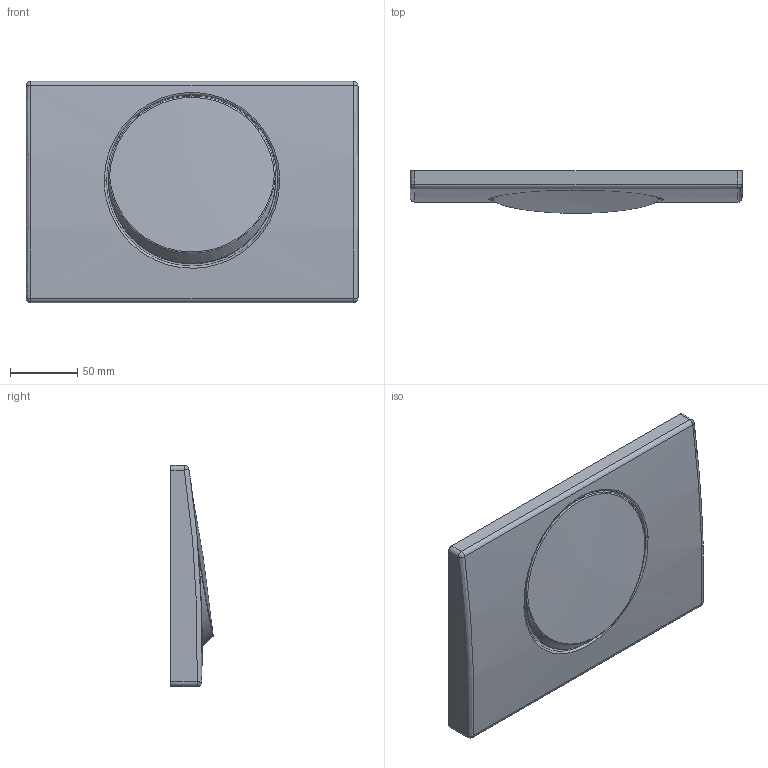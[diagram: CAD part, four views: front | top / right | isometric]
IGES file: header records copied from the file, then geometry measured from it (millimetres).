
Global section: file name: 115108; native system: Autodesk Inventor 2018; preprocessor: unknown; author: JANAN; date: 20211008.092415; units: millimetre
Bounding box: 246 x 31.35 x 164 mm (x, y, z)
Volume: 837251.4 mm3; surface area: 131210.3 mm2
Topology: 2 solids, 2 shells, 35 faces, 70 edges, 40 vertices
Faces by surface type: bspline 35
